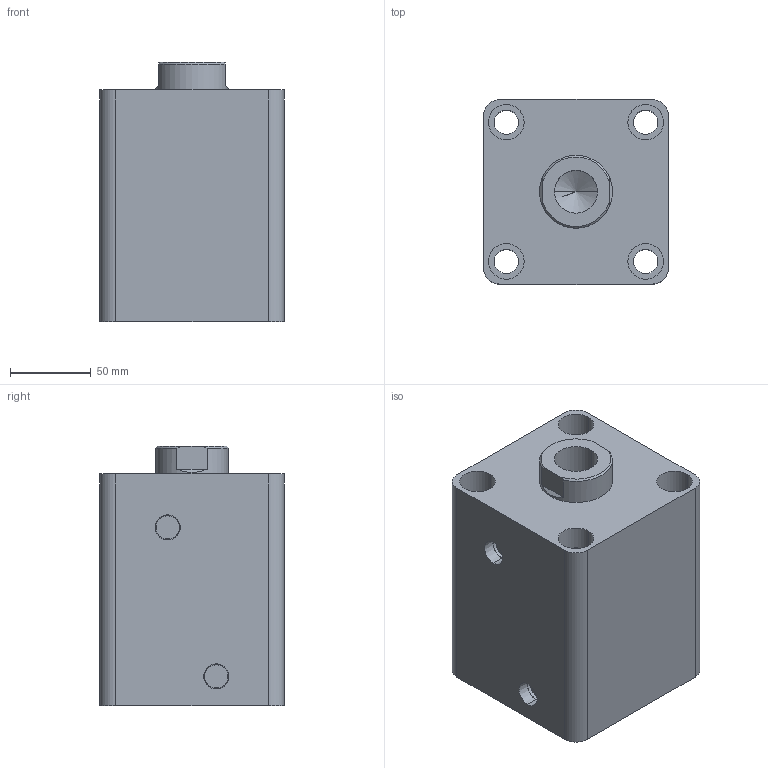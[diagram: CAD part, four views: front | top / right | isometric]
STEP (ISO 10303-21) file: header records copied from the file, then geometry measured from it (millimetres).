
FILE_DESCRIPTION (( 'STEP AP203' ), '1' );
FILE_NAME ('HTB-SD80-65N.STEP', '2019-10-07T08:32:28', ( '微软用户' ), ( '微软中国' ), 'SwSTEP 2.0', 'SolidWorks 2012', '' );
FILE_SCHEMA (( 'CONFIG_CONTROL_DESIGN' ));
Length unit declared in the file: millimetre
Products named in the file (3): HTB-SD80-65N; HTB-SD80-65N活塞杆; HTB-SD80-65掛极
Assembly tree (2 placements, depth 2):
  HTB-SD80-65N
    HTB-SD80-65掛极
    HTB-SD80-65N活塞杆
Bounding box: 114 x 114 x 160 mm (x, y, z)
Volume: 1499078.5 mm3; surface area: 189843.6 mm2
Topology: 2 solids, 2 shells, 83 faces, 184 edges, 119 vertices
Faces by surface type: cylinder 42, plane 27, cone 8, torus 6
Entity records: 2655 total; most frequent: DIRECTION 456, CARTESIAN_POINT 417, ORIENTED_EDGE 364, AXIS2_PLACEMENT_3D 194, EDGE_CURVE 182, VERTEX_POINT 119, EDGE_LOOP 107, CIRCLE 106
